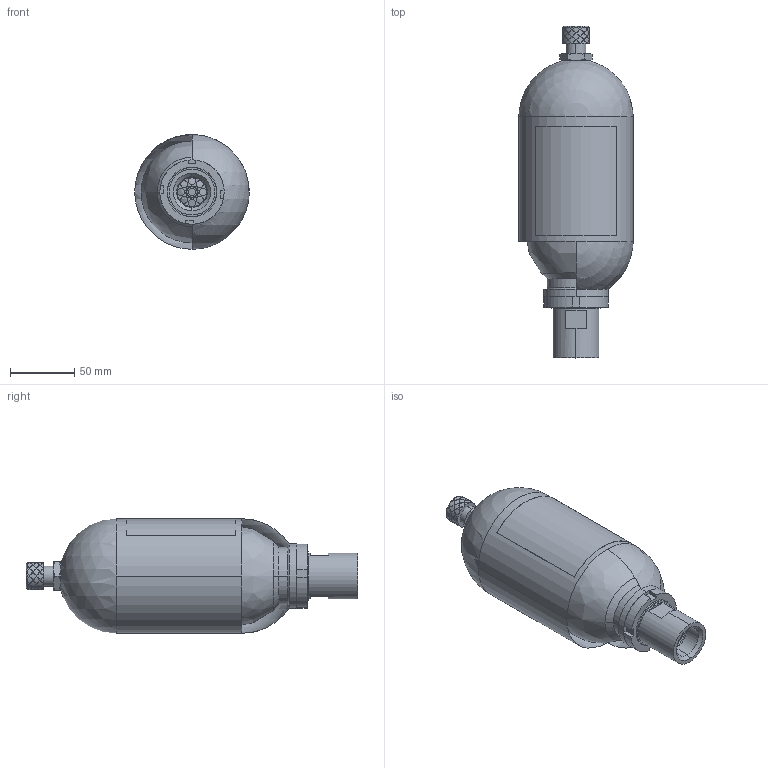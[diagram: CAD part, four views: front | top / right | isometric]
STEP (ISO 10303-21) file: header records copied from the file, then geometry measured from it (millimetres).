
FILE_DESCRIPTION((''),'2;1');
FILE_NAME('EHV_0L5_350_90.stp','2011-02-28T16:32:23',(''),(''),'Mechanical Desktop 2009','Mechanical Desktop 2009',', , ');
FILE_SCHEMA(('CONFIG_CONTROL_DESIGN'));
Length unit declared in the file: millimetre
Products named in the file (29): DESSIN2; AC108764-01125; CA100214-00290(1); CA100214-00290; BC108642-00220; BE100067-00200(1); BE100067-00200; BM108641-00200; CB108640-00200(1); CB108640-00200; EC100985-00200(1); EC100985-00200; PF109225-05200; PIECE1(1); VC111280-00225; VE111281-00225; CS103645-00225; CV102401-00200(1); CV102401-00200; EB102400-01600(1); EB102400-01600; BO102362-02620; BO100759-02600(1); BO100759-02600; JP101164-00020; JOINT PLAT; EC100999-00200(1); EC100999-00200; GABARIT
Assembly tree (28 placements, depth 7):
  DESSIN2
    AC108764-01125
      CA100214-00290(1)
        CA100214-00290
      BC108642-00220
        BE100067-00200(1)
          BE100067-00200
        BM108641-00200
          CB108640-00200(1)
            CB108640-00200
        EC100985-00200(1)
          EC100985-00200
      PF109225-05200
        PIECE1(1)
      VC111280-00225
        VE111281-00225
          CS103645-00225
            CV102401-00200(1)
              CV102401-00200
        EB102400-01600(1)
          EB102400-01600
        BO102362-02620
          BO100759-02600(1)
            BO100759-02600
          JP101164-00020
            JOINT PLAT
        EC100999-00200(1)
          EC100999-00200
    GABARIT
Bounding box: 89 x 257.77 x 89.05 mm (x, y, z)
Volume: 185553.2 mm3; surface area: 152079.3 mm2
Topology: 10 solids, 10 shells, 510 faces, 1132 edges, 655 vertices
Faces by surface type: bspline 209, cylinder 156, plane 73, cone 55, torus 14, sphere 3
Entity records: 21539 total; most frequent: CARTESIAN_POINT 11097, ORIENTED_EDGE 2220, DIRECTION 1780, EDGE_CURVE 1110, AXIS2_PLACEMENT_3D 746, VERTEX_POINT 650, EDGE_LOOP 572, FACE_OUTER_BOUND 510
